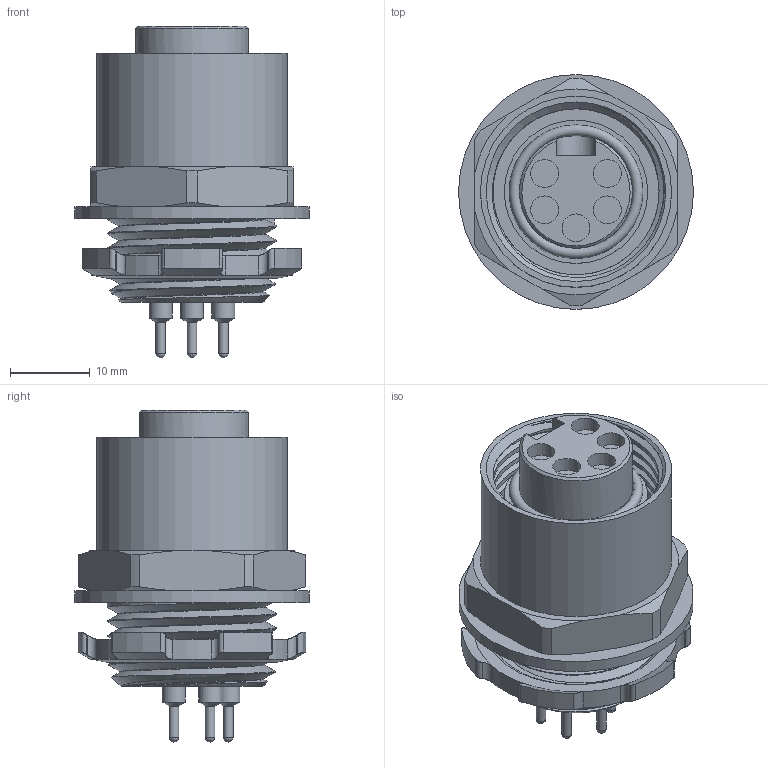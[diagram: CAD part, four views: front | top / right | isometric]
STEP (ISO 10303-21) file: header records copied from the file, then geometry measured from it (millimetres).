
FILE_DESCRIPTION (( 'STEP AP203' ), '1' );
FILE_NAME ('CM03A-PR5S-D-1(R1).STEP', '2022-04-06T08:00:03', ( '' ), ( '' ), 'SwSTEP 2.0', 'SolidWorks 2018', '' );
FILE_SCHEMA (( 'CONFIG_CONTROL_DESIGN' ));
Length unit declared in the file: millimetre
Products named in the file (1): CM03A-PR5S-D-1(R1)
Bounding box: 29.5 x 29.5 x 41.7 mm (x, y, z)
Volume: 13491.1 mm3; surface area: 6393.5 mm2
Topology: 1 solids, 1 shells, 163 faces, 411 edges, 257 vertices
Faces by surface type: cylinder 69, plane 40, cone 36, bspline 12, sphere 5, torus 1
Full cylindrical faces by diameter (mm): 1.2 x5, 2.9 x5, 3.5 x5, 14.2 x1, 18 x1, 20.86 x4, 24 x1, 29.5 x1
Entity records: 10392 total; most frequent: CARTESIAN_POINT 7000, ORIENTED_EDGE 692, DIRECTION 614, EDGE_CURVE 346, AXIS2_PLACEMENT_3D 264, VERTEX_POINT 236, EDGE_LOOP 208, FACE_OUTER_BOUND 179
